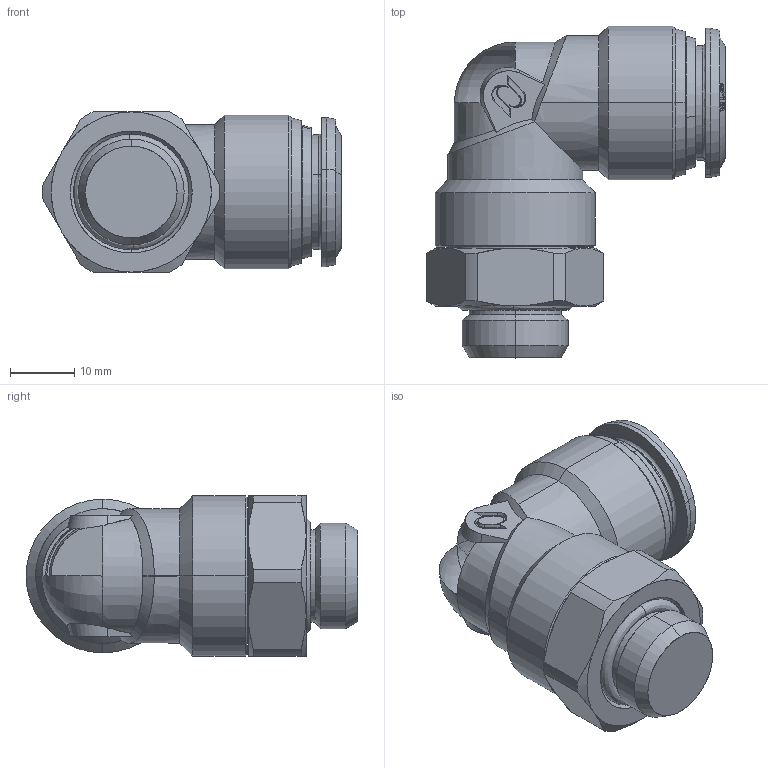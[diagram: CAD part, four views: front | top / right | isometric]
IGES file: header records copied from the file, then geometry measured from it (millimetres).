
Start section: SolidWorks IGES file using analytic representation for surfaces
Global section: file name: \\192.168.0.114\Utecnico\Disegni\Disegni Esecutivi\SERIE 50000\ASSIEMI_50000\50116\IGES e STEP\5011600031A.IGS; native system: SolidWorks 2020; preprocessor: SolidWorks 2020; author: cad06; date: 231102.115619; units: millimetre
Bounding box: 46.65 x 51.8 x 25 mm (x, y, z)
Surface area: 7867.7 mm2 (no closed solid volume)
Topology: 0 solids, 0 shells, 175 faces, 2049 edges, 2047 vertices
Faces by surface type: bspline 89, revolution 86
